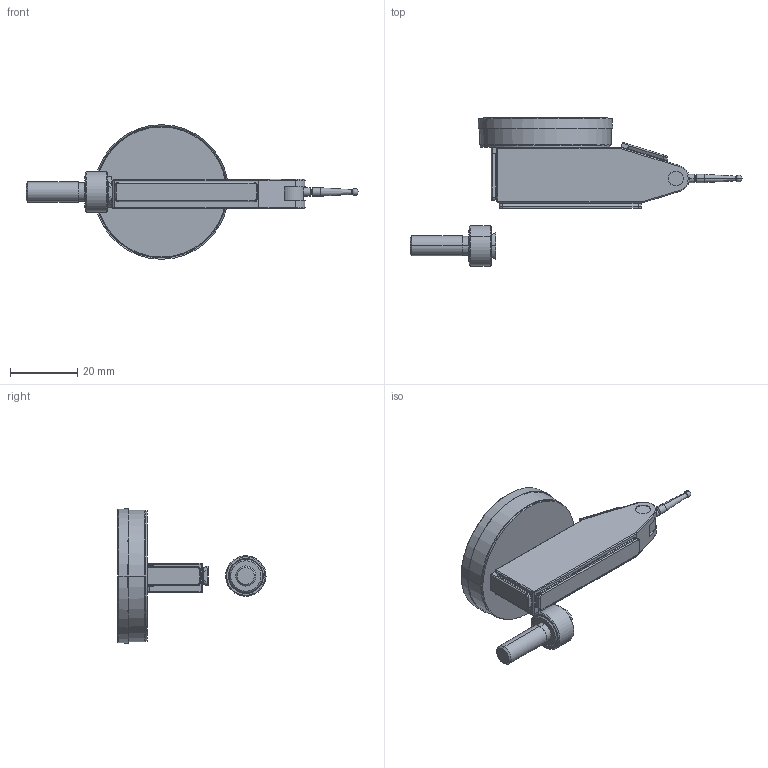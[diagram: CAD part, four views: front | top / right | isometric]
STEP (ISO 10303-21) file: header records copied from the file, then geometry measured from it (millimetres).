
FILE_DESCRIPTION(('Creo Elements/Direct Modeling STEP Export'),'2;1');
FILE_NAME('513-475-10H_TI-112HRX.stp','2021-12-24T14:38:03',(''),(''),'Creo Elements/Direct Modeling STEP processor for AP214 (Solid Model)','Creo Elements/Direct Modeling 18.1I 13-Aug-2016 (C) Parametric Technology GmbH','');
FILE_SCHEMA(('AUTOMOTIVE_DESIGN { 1 0 10303 214 1 1 1 1 }'));
Length unit declared in the file: millimetre
Products named in the file (4): nut_190322; 513-475-10; stem_21CAB103; 513-475-10H
Assembly tree (3 placements, depth 2):
  513-475-10H
    stem_21CAB103
    513-475-10
    nut_190322
Bounding box: 98.56 x 43.95 x 40 mm (x, y, z)
Volume: 19660.6 mm3; surface area: 8282.8 mm2
Topology: 3 solids, 3 shells, 201 faces, 460 edges, 274 vertices
Faces by surface type: cylinder 81, plane 52, cone 34, torus 16, bspline 16, sphere 2
Entity records: 8951 total; most frequent: CARTESIAN_POINT 4661, ORIENTED_EDGE 916, DIRECTION 829, EDGE_CURVE 458, AXIS2_PLACEMENT_3D 314, VERTEX_POINT 274, EDGE_LOOP 220, FACE_OUTER_BOUND 201
